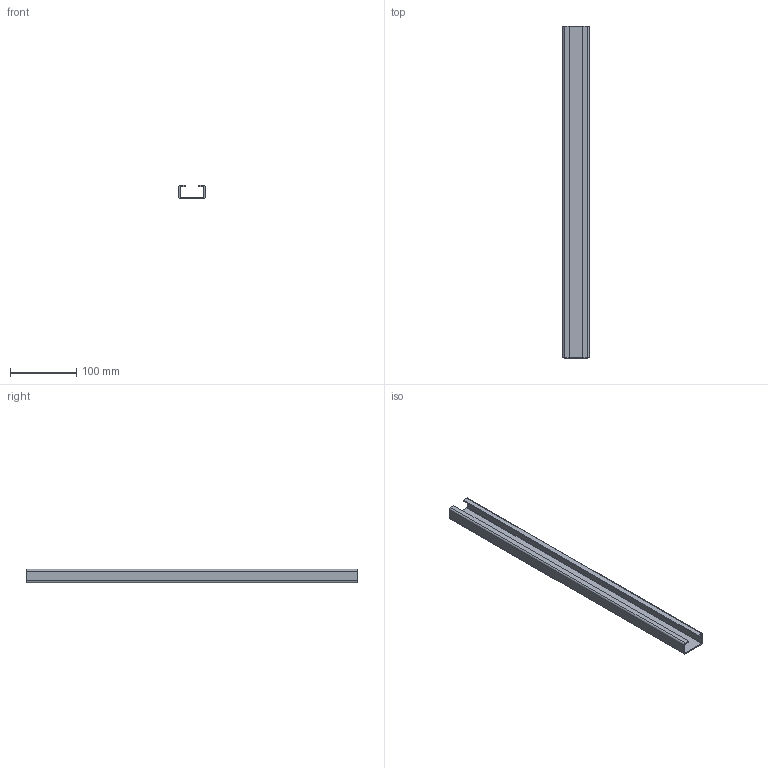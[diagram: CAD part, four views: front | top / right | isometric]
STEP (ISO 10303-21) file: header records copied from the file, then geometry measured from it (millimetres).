
FILE_DESCRIPTION (( 'STEP AP203' ), '1' );
FILE_NAME ('CP2040U_V0.STEP', '2019-01-14T09:48:18', ( '' ), ( '' ), 'SwSTEP 2.0', 'SolidWorks 2017', '' );
FILE_SCHEMA (( 'CONFIG_CONTROL_DESIGN' ));
Length unit declared in the file: millimetre
Products named in the file (1): CP2040U_V0
Bounding box: 40 x 500 x 20 mm (x, y, z)
Volume: 89424.8 mm3; surface area: 91782.5 mm2
Topology: 1 solids, 1 shells, 22 faces, 60 edges, 40 vertices
Faces by surface type: plane 14, cylinder 8
Entity records: 777 total; most frequent: CARTESIAN_POINT 123, DIRECTION 122, ORIENTED_EDGE 120, EDGE_CURVE 60, VECTOR 44, LINE 44, VERTEX_POINT 40, AXIS2_PLACEMENT_3D 39
